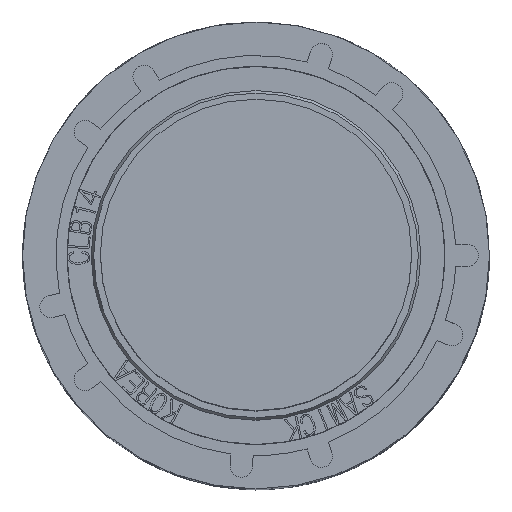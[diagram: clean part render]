
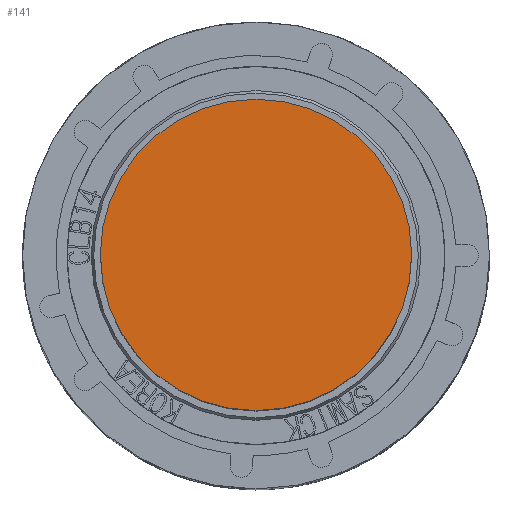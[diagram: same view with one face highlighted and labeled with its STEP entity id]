
A CAD part, top view. The second image highlights one B-rep face of the part: STEP entity #141.
In plain terms, the highlighted planar face has unit normal (0, 0, 1).
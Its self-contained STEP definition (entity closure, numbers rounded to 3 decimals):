
#101=CARTESIAN_POINT('',(7.,0.,28.));
#102=VERTEX_POINT('',#101);
#103=CARTESIAN_POINT('',(0.0,0.0,28.));
#104=DIRECTION('',(0.0,0.0,-1.0));
#105=DIRECTION('',(-1.0,0.0,0.0));
#106=AXIS2_PLACEMENT_3D('',#103,#104,#105);
#107=CIRCLE('',#106,7.);
#108=EDGE_CURVE('',#102,#102,#107,.T.);
#133=CARTESIAN_POINT('',(0.0,0.0,28.));
#134=DIRECTION('',(0.0,0.0,-1.0));
#135=DIRECTION('',(-1.0,0.0,0.0));
#136=AXIS2_PLACEMENT_3D('',#133,#134,#135);
#137=PLANE('',#136);
#138=ORIENTED_EDGE('',*,*,#108,.F.);
#139=EDGE_LOOP('',(#138));
#140=FACE_OUTER_BOUND('',#139,.T.);
#141=ADVANCED_FACE('',(#140),#137,.F.);
